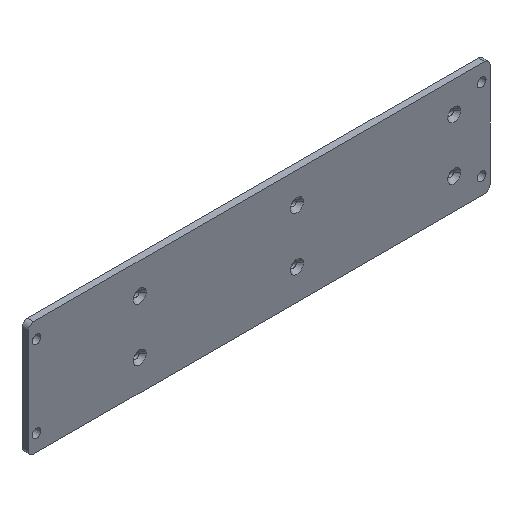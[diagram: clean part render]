
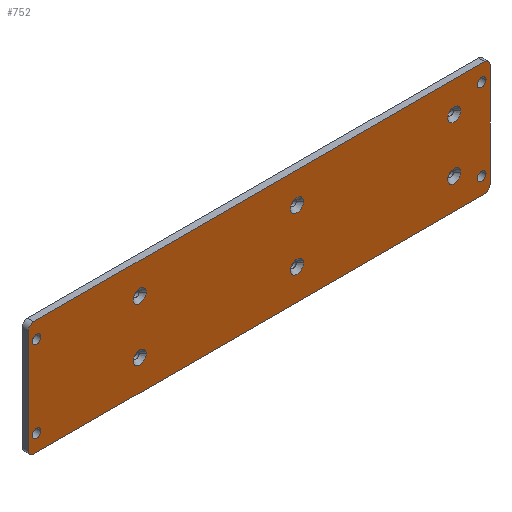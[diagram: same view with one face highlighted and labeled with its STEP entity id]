
A CAD part, isometric view. The second image highlights one B-rep face of the part: STEP entity #752.
In plain terms, the highlighted planar face has unit normal (0, -1, 0).
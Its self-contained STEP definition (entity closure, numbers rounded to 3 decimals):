
#41=CARTESIAN_POINT('',(4.318,0.,4.318));
#42=DIRECTION('',(0.,-1.,0.));
#43=DIRECTION('',(-1.,0.,0.));
#44=AXIS2_PLACEMENT_3D('',#41,#42,#43);
#46=DIRECTION('',(0.,0.,1.));
#47=VECTOR('',#46,78.847);
#48=CARTESIAN_POINT('',(0.,0.,4.318));
#49=LINE('',#48,#47);
#50=CARTESIAN_POINT('',(4.318,0.,83.165));
#51=DIRECTION('',(0.,-1.,0.));
#52=DIRECTION('',(0.,0.,1.));
#53=AXIS2_PLACEMENT_3D('',#50,#51,#52);
#55=DIRECTION('',(1.,0.,0.));
#56=VECTOR('',#55,343.76);
#57=CARTESIAN_POINT('',(4.318,0.,87.483));
#58=LINE('',#57,#56);
#59=CARTESIAN_POINT('',(348.078,0.,83.165));
#60=DIRECTION('',(0.,-1.,0.));
#61=DIRECTION('',(1.,0.,0.));
#62=AXIS2_PLACEMENT_3D('',#59,#60,#61);
#64=DIRECTION('',(0.,0.,-1.));
#65=VECTOR('',#64,78.847);
#66=CARTESIAN_POINT('',(352.396,0.,83.165));
#67=LINE('',#66,#65);
#68=CARTESIAN_POINT('',(348.078,0.,4.318));
#69=DIRECTION('',(0.,-1.,0.));
#70=DIRECTION('',(0.,0.,-1.));
#71=AXIS2_PLACEMENT_3D('',#68,#69,#70);
#73=DIRECTION('',(-1.,0.,0.));
#74=VECTOR('',#73,343.76);
#75=CARTESIAN_POINT('',(348.078,0.,0.));
#76=LINE('',#75,#74);
#77=CARTESIAN_POINT('',(6.35,0.,12.7));
#78=DIRECTION('',(0.,1.,0.));
#79=DIRECTION('',(1.,0.,0.));
#80=AXIS2_PLACEMENT_3D('',#77,#78,#79);
#82=CARTESIAN_POINT('',(6.35,0.,12.7));
#83=DIRECTION('',(0.,1.,0.));
#84=DIRECTION('',(-1.,0.,0.));
#85=AXIS2_PLACEMENT_3D('',#82,#83,#84);
#87=CARTESIAN_POINT('',(6.35,0.,74.783));
#88=DIRECTION('',(0.,1.,0.));
#89=DIRECTION('',(1.,0.,0.));
#90=AXIS2_PLACEMENT_3D('',#87,#88,#89);
#92=CARTESIAN_POINT('',(6.35,0.,74.783));
#93=DIRECTION('',(0.,1.,0.));
#94=DIRECTION('',(-1.,0.,0.));
#95=AXIS2_PLACEMENT_3D('',#92,#93,#94);
#97=CARTESIAN_POINT('',(346.046,0.,12.7));
#98=DIRECTION('',(0.,1.,0.));
#99=DIRECTION('',(1.,0.,0.));
#100=AXIS2_PLACEMENT_3D('',#97,#98,#99);
#102=CARTESIAN_POINT('',(346.046,0.,12.7));
#103=DIRECTION('',(0.,1.,0.));
#104=DIRECTION('',(-1.,0.,0.));
#105=AXIS2_PLACEMENT_3D('',#102,#103,#104);
#107=CARTESIAN_POINT('',(346.046,0.,74.783));
#108=DIRECTION('',(0.,1.,0.));
#109=DIRECTION('',(1.,0.,0.));
#110=AXIS2_PLACEMENT_3D('',#107,#108,#109);
#112=CARTESIAN_POINT('',(346.046,0.,74.783));
#113=DIRECTION('',(0.,1.,0.));
#114=DIRECTION('',(-1.,0.,0.));
#115=AXIS2_PLACEMENT_3D('',#112,#113,#114);
#117=CARTESIAN_POINT('',(85.072,0.,23.421));
#118=DIRECTION('',(0.,-1.,0.));
#119=DIRECTION('',(-1.,0.,0.));
#120=AXIS2_PLACEMENT_3D('',#117,#118,#119);
#122=CARTESIAN_POINT('',(85.072,0.,23.421));
#123=DIRECTION('',(0.,-1.,0.));
#124=DIRECTION('',(1.,0.,0.));
#125=AXIS2_PLACEMENT_3D('',#122,#123,#124);
#127=CARTESIAN_POINT('',(85.072,0.,64.061));
#128=DIRECTION('',(0.,-1.,0.));
#129=DIRECTION('',(-1.,0.,0.));
#130=AXIS2_PLACEMENT_3D('',#127,#128,#129);
#132=CARTESIAN_POINT('',(85.072,0.,64.061));
#133=DIRECTION('',(0.,-1.,0.));
#134=DIRECTION('',(1.,0.,0.));
#135=AXIS2_PLACEMENT_3D('',#132,#133,#134);
#137=CARTESIAN_POINT('',(205.072,0.,23.421));
#138=DIRECTION('',(0.,-1.,0.));
#139=DIRECTION('',(-1.,0.,0.));
#140=AXIS2_PLACEMENT_3D('',#137,#138,#139);
#142=CARTESIAN_POINT('',(205.072,0.,23.421));
#143=DIRECTION('',(0.,-1.,0.));
#144=DIRECTION('',(1.,0.,0.));
#145=AXIS2_PLACEMENT_3D('',#142,#143,#144);
#147=CARTESIAN_POINT('',(205.072,0.,64.061));
#148=DIRECTION('',(0.,-1.,0.));
#149=DIRECTION('',(-1.,0.,0.));
#150=AXIS2_PLACEMENT_3D('',#147,#148,#149);
#152=CARTESIAN_POINT('',(205.072,0.,64.061));
#153=DIRECTION('',(0.,-1.,0.));
#154=DIRECTION('',(1.,0.,0.));
#155=AXIS2_PLACEMENT_3D('',#152,#153,#154);
#157=CARTESIAN_POINT('',(325.072,0.,23.421));
#158=DIRECTION('',(0.,-1.,0.));
#159=DIRECTION('',(-1.,0.,0.));
#160=AXIS2_PLACEMENT_3D('',#157,#158,#159);
#162=CARTESIAN_POINT('',(325.072,0.,23.421));
#163=DIRECTION('',(0.,-1.,0.));
#164=DIRECTION('',(1.,0.,0.));
#165=AXIS2_PLACEMENT_3D('',#162,#163,#164);
#167=CARTESIAN_POINT('',(325.072,0.,64.061));
#168=DIRECTION('',(0.,-1.,0.));
#169=DIRECTION('',(-1.,0.,0.));
#170=AXIS2_PLACEMENT_3D('',#167,#168,#169);
#172=CARTESIAN_POINT('',(325.072,0.,64.061));
#173=DIRECTION('',(0.,-1.,0.));
#174=DIRECTION('',(1.,0.,0.));
#175=AXIS2_PLACEMENT_3D('',#172,#173,#174);
#533=CARTESIAN_POINT('',(9.652,0.,12.7));
#534=CARTESIAN_POINT('',(3.048,0.,12.7));
#535=VERTEX_POINT('',#533);
#536=VERTEX_POINT('',#534);
#541=CARTESIAN_POINT('',(9.652,0.,74.783));
#543=VERTEX_POINT('',#541);
#545=CARTESIAN_POINT('',(3.048,0.,74.783));
#547=VERTEX_POINT('',#545);
#549=CARTESIAN_POINT('',(349.346,0.,12.7));
#551=VERTEX_POINT('',#549);
#553=CARTESIAN_POINT('',(342.747,0.,12.7));
#555=VERTEX_POINT('',#553);
#557=CARTESIAN_POINT('',(349.348,0.,74.783));
#559=VERTEX_POINT('',#557);
#561=CARTESIAN_POINT('',(342.744,0.,74.783));
#563=VERTEX_POINT('',#561);
#565=CARTESIAN_POINT('',(0.,0.,4.318));
#566=CARTESIAN_POINT('',(4.318,0.,0.));
#567=VERTEX_POINT('',#565);
#568=VERTEX_POINT('',#566);
#573=CARTESIAN_POINT('',(4.318,0.,87.483));
#574=CARTESIAN_POINT('',(0.,0.,83.165));
#575=VERTEX_POINT('',#573);
#576=VERTEX_POINT('',#574);
#581=CARTESIAN_POINT('',(352.396,0.,83.165));
#582=CARTESIAN_POINT('',(348.078,0.,87.483));
#583=VERTEX_POINT('',#581);
#584=VERTEX_POINT('',#582);
#589=CARTESIAN_POINT('',(348.078,0.,0.));
#590=CARTESIAN_POINT('',(352.396,0.,4.318));
#591=VERTEX_POINT('',#589);
#592=VERTEX_POINT('',#590);
#601=CARTESIAN_POINT('',(80.072,0.,23.421));
#602=CARTESIAN_POINT('',(90.072,0.,23.421));
#603=VERTEX_POINT('',#601);
#604=VERTEX_POINT('',#602);
#615=CARTESIAN_POINT('',(80.072,0.,64.061));
#616=VERTEX_POINT('',#615);
#619=CARTESIAN_POINT('',(90.072,0.,64.061));
#620=VERTEX_POINT('',#619);
#627=CARTESIAN_POINT('',(200.072,0.,23.421));
#628=VERTEX_POINT('',#627);
#631=CARTESIAN_POINT('',(210.072,0.,23.421));
#632=VERTEX_POINT('',#631);
#639=CARTESIAN_POINT('',(200.072,0.,64.061));
#640=VERTEX_POINT('',#639);
#643=CARTESIAN_POINT('',(210.072,0.,64.061));
#644=VERTEX_POINT('',#643);
#651=CARTESIAN_POINT('',(320.072,0.,23.421));
#652=VERTEX_POINT('',#651);
#655=CARTESIAN_POINT('',(330.072,0.,23.421));
#656=VERTEX_POINT('',#655);
#663=CARTESIAN_POINT('',(320.072,0.,64.061));
#664=VERTEX_POINT('',#663);
#667=CARTESIAN_POINT('',(330.072,0.,64.061));
#668=VERTEX_POINT('',#667);
#669=CARTESIAN_POINT('',(0.,0.,0.));
#670=DIRECTION('',(0.,1.,0.));
#671=DIRECTION('',(1.,0.,0.));
#672=AXIS2_PLACEMENT_3D('',#669,#670,#671);
#673=PLANE('',#672);
#675=ORIENTED_EDGE('',*,*,#674,.F.);
#677=ORIENTED_EDGE('',*,*,#676,.T.);
#679=ORIENTED_EDGE('',*,*,#678,.F.);
#681=ORIENTED_EDGE('',*,*,#680,.T.);
#683=ORIENTED_EDGE('',*,*,#682,.F.);
#685=ORIENTED_EDGE('',*,*,#684,.T.);
#687=ORIENTED_EDGE('',*,*,#686,.F.);
#689=ORIENTED_EDGE('',*,*,#688,.T.);
#690=EDGE_LOOP('',(#675,#677,#679,#681,#683,#685,#687,#689));
#691=FACE_OUTER_BOUND('',#690,.F.);
#693=ORIENTED_EDGE('',*,*,#692,.F.);
#695=ORIENTED_EDGE('',*,*,#694,.F.);
#696=EDGE_LOOP('',(#693,#695));
#697=FACE_BOUND('',#696,.F.);
#699=ORIENTED_EDGE('',*,*,#698,.F.);
#701=ORIENTED_EDGE('',*,*,#700,.F.);
#702=EDGE_LOOP('',(#699,#701));
#703=FACE_BOUND('',#702,.F.);
#705=ORIENTED_EDGE('',*,*,#704,.F.);
#707=ORIENTED_EDGE('',*,*,#706,.F.);
#708=EDGE_LOOP('',(#705,#707));
#709=FACE_BOUND('',#708,.F.);
#711=ORIENTED_EDGE('',*,*,#710,.F.);
#713=ORIENTED_EDGE('',*,*,#712,.F.);
#714=EDGE_LOOP('',(#711,#713));
#715=FACE_BOUND('',#714,.F.);
#717=ORIENTED_EDGE('',*,*,#716,.T.);
#719=ORIENTED_EDGE('',*,*,#718,.T.);
#720=EDGE_LOOP('',(#717,#719));
#721=FACE_BOUND('',#720,.F.);
#723=ORIENTED_EDGE('',*,*,#722,.T.);
#725=ORIENTED_EDGE('',*,*,#724,.T.);
#726=EDGE_LOOP('',(#723,#725));
#727=FACE_BOUND('',#726,.F.);
#729=ORIENTED_EDGE('',*,*,#728,.T.);
#731=ORIENTED_EDGE('',*,*,#730,.T.);
#732=EDGE_LOOP('',(#729,#731));
#733=FACE_BOUND('',#732,.F.);
#735=ORIENTED_EDGE('',*,*,#734,.T.);
#737=ORIENTED_EDGE('',*,*,#736,.T.);
#738=EDGE_LOOP('',(#735,#737));
#739=FACE_BOUND('',#738,.F.);
#741=ORIENTED_EDGE('',*,*,#740,.T.);
#743=ORIENTED_EDGE('',*,*,#742,.T.);
#744=EDGE_LOOP('',(#741,#743));
#745=FACE_BOUND('',#744,.F.);
#747=ORIENTED_EDGE('',*,*,#746,.T.);
#749=ORIENTED_EDGE('',*,*,#748,.T.);
#750=EDGE_LOOP('',(#747,#749));
#751=FACE_BOUND('',#750,.F.);
#45=CIRCLE('',#44,4.318);
#54=CIRCLE('',#53,4.318);
#63=CIRCLE('',#62,4.318);
#72=CIRCLE('',#71,4.318);
#81=CIRCLE('',#80,3.302);
#86=CIRCLE('',#85,3.302);
#91=CIRCLE('',#90,3.302);
#96=CIRCLE('',#95,3.302);
#101=CIRCLE('',#100,3.299);
#106=CIRCLE('',#105,3.299);
#111=CIRCLE('',#110,3.302);
#116=CIRCLE('',#115,3.302);
#121=CIRCLE('',#120,5.);
#126=CIRCLE('',#125,5.);
#131=CIRCLE('',#130,5.);
#136=CIRCLE('',#135,5.);
#141=CIRCLE('',#140,5.);
#146=CIRCLE('',#145,5.);
#151=CIRCLE('',#150,5.);
#156=CIRCLE('',#155,5.);
#161=CIRCLE('',#160,5.);
#166=CIRCLE('',#165,5.);
#171=CIRCLE('',#170,5.);
#176=CIRCLE('',#175,5.);
#674=EDGE_CURVE('',#567,#568,#45,.T.);
#676=EDGE_CURVE('',#567,#576,#49,.T.);
#678=EDGE_CURVE('',#575,#576,#54,.T.);
#680=EDGE_CURVE('',#575,#584,#58,.T.);
#682=EDGE_CURVE('',#583,#584,#63,.T.);
#684=EDGE_CURVE('',#583,#592,#67,.T.);
#686=EDGE_CURVE('',#591,#592,#72,.T.);
#688=EDGE_CURVE('',#591,#568,#76,.T.);
#692=EDGE_CURVE('',#535,#536,#81,.T.);
#694=EDGE_CURVE('',#536,#535,#86,.T.);
#698=EDGE_CURVE('',#543,#547,#91,.T.);
#700=EDGE_CURVE('',#547,#543,#96,.T.);
#704=EDGE_CURVE('',#551,#555,#101,.T.);
#706=EDGE_CURVE('',#555,#551,#106,.T.);
#710=EDGE_CURVE('',#559,#563,#111,.T.);
#712=EDGE_CURVE('',#563,#559,#116,.T.);
#716=EDGE_CURVE('',#603,#604,#121,.T.);
#718=EDGE_CURVE('',#604,#603,#126,.T.);
#722=EDGE_CURVE('',#616,#620,#131,.T.);
#724=EDGE_CURVE('',#620,#616,#136,.T.);
#728=EDGE_CURVE('',#628,#632,#141,.T.);
#730=EDGE_CURVE('',#632,#628,#146,.T.);
#734=EDGE_CURVE('',#640,#644,#151,.T.);
#736=EDGE_CURVE('',#644,#640,#156,.T.);
#740=EDGE_CURVE('',#652,#656,#161,.T.);
#742=EDGE_CURVE('',#656,#652,#166,.T.);
#746=EDGE_CURVE('',#664,#668,#171,.T.);
#748=EDGE_CURVE('',#668,#664,#176,.T.);
#752=ADVANCED_FACE('',(#691,#697,#703,#709,#715,#721,#727,#733,#739,#745,#751),
#673,.F.);
